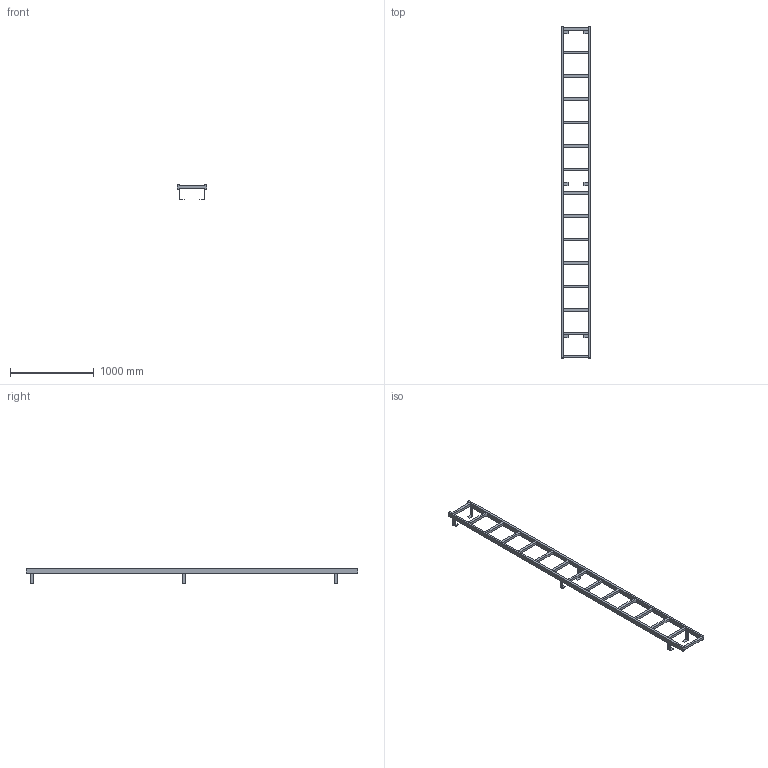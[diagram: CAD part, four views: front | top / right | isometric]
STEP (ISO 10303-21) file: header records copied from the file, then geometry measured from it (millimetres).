
FILE_DESCRIPTION((''),'2;1');
FILE_NAME('017_000109','2017-06-12T',('set'),('HUBER SE'),'PRO/ENGINEER BY PARAMETRIC TECHNOLOGY CORPORATION, 2015280','PRO/ENGINEER BY PARAMETRIC TECHNOLOGY CORPORATION, 2015280','');
FILE_SCHEMA(('CONFIG_CONTROL_DESIGN'));
Length unit declared in the file: millimetre
Products named in the file (1): 017_000109
Bounding box: 350 x 3970 x 178.5 mm (x, y, z)
Volume: 15461940 mm3; surface area: 1910212 mm2
Topology: 1 solids, 1 shells, 118 faces, 445 edges, 325 vertices
Faces by surface type: plane 118
Entity records: 4578 total; most frequent: CARTESIAN_POINT 944, ORIENTED_EDGE 688, DIRECTION 666, VECTOR 398, LINE 398, EDGE_CURVE 344, VERTEX_POINT 224, EDGE_LOOP 142
